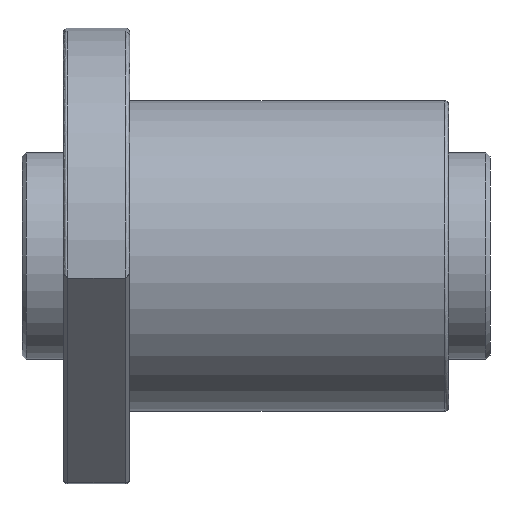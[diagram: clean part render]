
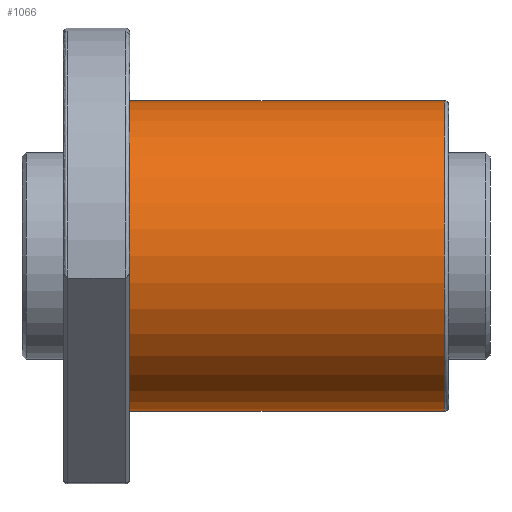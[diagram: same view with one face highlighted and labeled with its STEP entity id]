
A CAD part, front view. The second image highlights one B-rep face of the part: STEP entity #1066.
In plain terms, the highlighted cylindrical face has radius 37.5 mm (diameter 75 mm), a partial arc.
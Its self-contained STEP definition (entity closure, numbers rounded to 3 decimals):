
#80 = EDGE_CURVE ( 'NONE', #4775, #2179, #2363, .T. ) ;
#85 = ORIENTED_EDGE ( 'NONE', *, *, #80, .T. ) ;
#205 = CIRCLE ( 'NONE', #1440, 37.5 ) ;
#252 = LINE ( 'NONE', #4428, #4010 ) ;
#331 = CARTESIAN_POINT ( 'NONE',  ( 92., 0., 37.5 ) ) ;
#348 = DIRECTION ( 'NONE',  ( 0., 0., 1. ) ) ;
#369 = VERTEX_POINT ( 'NONE', #966 ) ;
#448 = CIRCLE ( 'NONE', #4006, 37.5 ) ;
#966 = CARTESIAN_POINT ( 'NONE',  ( 92., 0., -37.5 ) ) ;
#1066 = ADVANCED_FACE ( 'NONE', ( #1375 ), #1968, .T. ) ;
#1170 = EDGE_CURVE ( 'NONE', #2179, #3805, #205, .T. ) ;
#1375 = FACE_OUTER_BOUND ( 'NONE', #5095, .T. ) ;
#1408 = ORIENTED_EDGE ( 'NONE', *, *, #1170, .T. ) ;
#1440 = AXIS2_PLACEMENT_3D ( 'NONE', #2877, #2894, #5392 ) ;
#1530 = ORIENTED_EDGE ( 'NONE', *, *, #3801, .T. ) ;
#1535 = DIRECTION ( 'NONE',  ( -1., 0., 0. ) ) ;
#1564 = CARTESIAN_POINT ( 'NONE',  ( 93., 0., 0. ) ) ;
#1824 = DIRECTION ( 'NONE',  ( -1., 0., 0. ) ) ;
#1968 = CYLINDRICAL_SURFACE ( 'NONE', #4839, 37.5 ) ;
#2179 = VERTEX_POINT ( 'NONE', #4429 ) ;
#2363 = LINE ( 'NONE', #5185, #4155 ) ;
#2396 = CARTESIAN_POINT ( 'NONE',  ( 92., 0., 0. ) ) ;
#2812 = DIRECTION ( 'NONE',  ( -1., 0., 0. ) ) ;
#2830 = DIRECTION ( 'NONE',  ( 0., 0., 1. ) ) ;
#2877 = CARTESIAN_POINT ( 'NONE',  ( 16., 0., 0. ) ) ;
#2894 = DIRECTION ( 'NONE',  ( 1., 0., 0. ) ) ;
#3236 = ORIENTED_EDGE ( 'NONE', *, *, #4357, .F. ) ;
#3652 = CARTESIAN_POINT ( 'NONE',  ( 16., 0., -37.5 ) ) ;
#3801 = EDGE_CURVE ( 'NONE', #369, #4775, #448, .T. ) ;
#3805 = VERTEX_POINT ( 'NONE', #3652 ) ;
#4006 = AXIS2_PLACEMENT_3D ( 'NONE', #2396, #5325, #2830 ) ;
#4010 = VECTOR ( 'NONE', #1535, 1000. ) ;
#4155 = VECTOR ( 'NONE', #1824, 1000. ) ;
#4357 = EDGE_CURVE ( 'NONE', #369, #3805, #252, .T. ) ;
#4428 = CARTESIAN_POINT ( 'NONE',  ( 93., 0., -37.5 ) ) ;
#4429 = CARTESIAN_POINT ( 'NONE',  ( 16., 0., 37.5 ) ) ;
#4775 = VERTEX_POINT ( 'NONE', #331 ) ;
#4839 = AXIS2_PLACEMENT_3D ( 'NONE', #1564, #2812, #348 ) ;
#5095 = EDGE_LOOP ( 'NONE', ( #3236, #1530, #85, #1408 ) ) ;
#5185 = CARTESIAN_POINT ( 'NONE',  ( 93., 0., 37.5 ) ) ;
#5325 = DIRECTION ( 'NONE',  ( -1., 0., 0. ) ) ;
#5392 = DIRECTION ( 'NONE',  ( 0., 0., 1. ) ) ;
